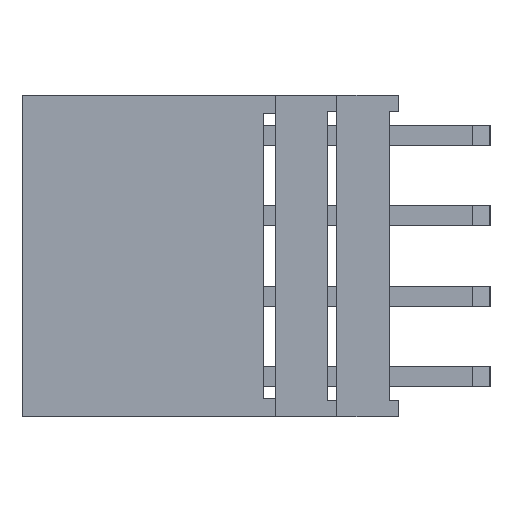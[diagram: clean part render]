
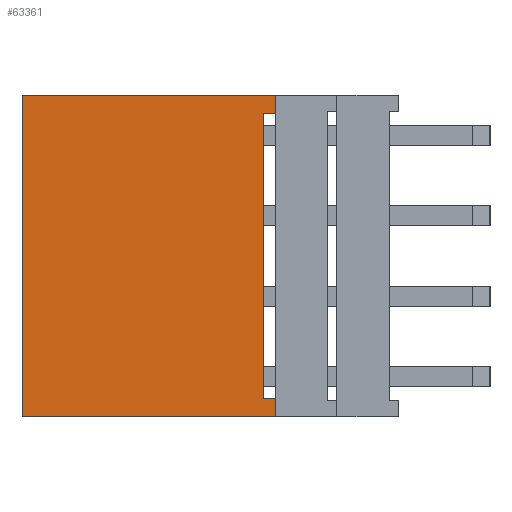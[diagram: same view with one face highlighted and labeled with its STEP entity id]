
A CAD part, left-side view. The second image highlights one B-rep face of the part: STEP entity #63361.
In plain terms, the highlighted planar face has unit normal (-1, 0, 0).
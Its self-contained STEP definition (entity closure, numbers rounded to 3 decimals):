
#637=DIRECTION('',(0.,-1.,0.));
#638=VECTOR('',#637,6.3);
#639=CARTESIAN_POINT('',(-30.1,0.,4.));
#640=LINE('',#639,#638);
#1680=DIRECTION('',(0.,0.,1.));
#1681=VECTOR('',#1680,8.);
#1682=CARTESIAN_POINT('',(-30.1,0.,-4.));
#1683=LINE('',#1682,#1681);
#29078=DIRECTION('',(0.,0.,1.));
#29079=VECTOR('',#29078,0.45);
#29080=CARTESIAN_POINT('',(-30.1,-6.3,3.55));
#29081=LINE('',#29080,#29079);
#29113=DIRECTION('',(0.,0.,1.));
#29114=VECTOR('',#29113,0.45);
#29115=CARTESIAN_POINT('',(-30.1,-6.3,-4.));
#29116=LINE('',#29115,#29114);
#30401=DIRECTION('',(0.,0.,1.));
#30402=VECTOR('',#30401,7.1);
#30403=CARTESIAN_POINT('',(-30.1,-6.,-3.55));
#30404=LINE('',#30403,#30402);
#30408=DIRECTION('',(0.,1.,0.));
#30409=VECTOR('',#30408,0.3);
#30410=CARTESIAN_POINT('',(-30.1,-6.3,-3.55));
#30411=LINE('',#30410,#30409);
#30415=DIRECTION('',(0.,-1.,0.));
#30416=VECTOR('',#30415,6.3);
#30417=CARTESIAN_POINT('',(-30.1,0.,-4.));
#30418=LINE('',#30417,#30416);
#30422=DIRECTION('',(0.,1.,0.));
#30423=VECTOR('',#30422,0.3);
#30424=CARTESIAN_POINT('',(-30.1,-6.3,3.55));
#30425=LINE('',#30424,#30423);
#35952=CARTESIAN_POINT('',(-30.1,-6.3,3.55));
#35953=VERTEX_POINT('',#35952);
#35954=CARTESIAN_POINT('',(-30.1,-6.3,-3.55));
#35956=VERTEX_POINT('',#35954);
#36004=CARTESIAN_POINT('',(-30.1,-6.,3.55));
#36005=VERTEX_POINT('',#36004);
#36006=CARTESIAN_POINT('',(-30.1,-6.,-3.55));
#36008=VERTEX_POINT('',#36006);
#37878=CARTESIAN_POINT('',(-30.1,0.,-4.));
#37879=CARTESIAN_POINT('',(-30.1,0.,4.));
#37880=VERTEX_POINT('',#37878);
#37881=VERTEX_POINT('',#37879);
#37886=CARTESIAN_POINT('',(-30.1,-6.3,-4.));
#37887=VERTEX_POINT('',#37886);
#37888=CARTESIAN_POINT('',(-30.1,-6.3,4.));
#37889=VERTEX_POINT('',#37888);
#63345=CARTESIAN_POINT('',(-30.1,0.,-4.));
#63346=DIRECTION('',(-1.,0.,0.));
#63347=DIRECTION('',(0.,0.,1.));
#63348=AXIS2_PLACEMENT_3D('',#63345,#63346,#63347);
#63349=PLANE('',#63348);
#63350=ORIENTED_EDGE('',*,*,#38408,.F.);
#63352=ORIENTED_EDGE('',*,*,#63351,.F.);
#63353=ORIENTED_EDGE('',*,*,#62415,.F.);
#63354=ORIENTED_EDGE('',*,*,#62164,.F.);
#63355=ORIENTED_EDGE('',*,*,#39952,.T.);
#63356=ORIENTED_EDGE('',*,*,#38137,.T.);
#63357=ORIENTED_EDGE('',*,*,#62399,.F.);
#63358=ORIENTED_EDGE('',*,*,#63340,.T.);
#63359=EDGE_LOOP('',(#63350,#63352,#63353,#63354,#63355,#63356,#63357,#63358));
#63360=FACE_OUTER_BOUND('',#63359,.F.);
#63361=ADVANCED_FACE('',(#63360),#63349,.T.);
#38137=EDGE_CURVE('',#37881,#37889,#640,.T.);
#38408=EDGE_CURVE('',#36008,#36005,#30404,.T.);
#39952=EDGE_CURVE('',#37880,#37881,#1683,.T.);
#62164=EDGE_CURVE('',#37880,#37887,#30418,.T.);
#62399=EDGE_CURVE('',#35953,#37889,#29081,.T.);
#62415=EDGE_CURVE('',#37887,#35956,#29116,.T.);
#63340=EDGE_CURVE('',#35953,#36005,#30425,.T.);
#63351=EDGE_CURVE('',#35956,#36008,#30411,.T.);
